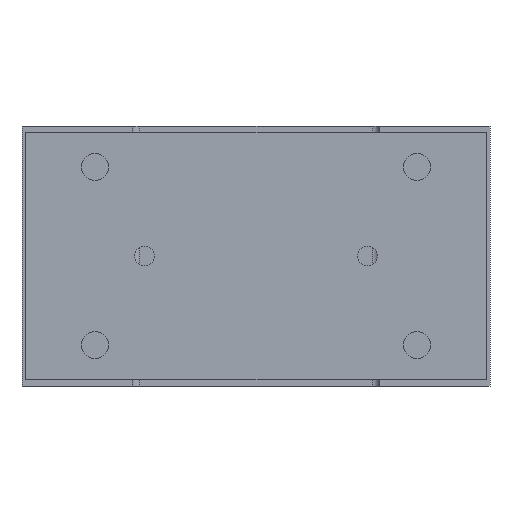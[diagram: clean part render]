
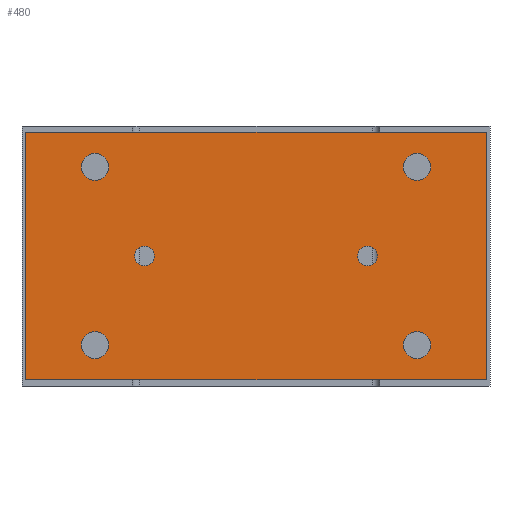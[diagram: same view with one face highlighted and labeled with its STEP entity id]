
A CAD part, left-side view. The second image highlights one B-rep face of the part: STEP entity #480.
In plain terms, the highlighted planar face has unit normal (-1, 0, 0).
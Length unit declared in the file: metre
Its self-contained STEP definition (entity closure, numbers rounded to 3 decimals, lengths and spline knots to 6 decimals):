
#480 = ADVANCED_FACE( '', ( #1116, #1117, #1118, #1119, #1120, #1121, #1122 ), #1123, .T. );
#1116 = FACE_BOUND( '', #1920, .T. );
#1117 = FACE_BOUND( '', #1921, .T. );
#1118 = FACE_BOUND( '', #1922, .T. );
#1119 = FACE_BOUND( '', #1923, .T. );
#1120 = FACE_BOUND( '', #1924, .T. );
#1121 = FACE_BOUND( '', #1925, .T. );
#1122 = FACE_OUTER_BOUND( '', #1926, .T. );
#1123 = PLANE( '', #1927 );
#1920 = EDGE_LOOP( '', ( #3124 ) );
#1921 = EDGE_LOOP( '', ( #3125 ) );
#1922 = EDGE_LOOP( '', ( #3126 ) );
#1923 = EDGE_LOOP( '', ( #3127 ) );
#1924 = EDGE_LOOP( '', ( #3128 ) );
#1925 = EDGE_LOOP( '', ( #3129 ) );
#1926 = EDGE_LOOP( '', ( #3130, #3131, #3132, #3133 ) );
#1927 = AXIS2_PLACEMENT_3D( '', #3134, #3135, #3136 );
#3124 = ORIENTED_EDGE( '', *, *, #3912, .F. );
#3125 = ORIENTED_EDGE( '', *, *, #3985, .F. );
#3126 = ORIENTED_EDGE( '', *, *, #4196, .F. );
#3127 = ORIENTED_EDGE( '', *, *, #4053, .F. );
#3128 = ORIENTED_EDGE( '', *, *, #3943, .F. );
#3129 = ORIENTED_EDGE( '', *, *, #4197, .T. );
#3130 = ORIENTED_EDGE( '', *, *, #4194, .T. );
#3131 = ORIENTED_EDGE( '', *, *, #3952, .T. );
#3132 = ORIENTED_EDGE( '', *, *, #3989, .T. );
#3133 = ORIENTED_EDGE( '', *, *, #3856, .T. );
#3134 = CARTESIAN_POINT( '', ( -0.135, 0.093, -0.1025 ) );
#3135 = DIRECTION( '', ( -1., 0., 0. ) );
#3136 = DIRECTION( '', ( 0., 0., -1. ) );
#3856 = EDGE_CURVE( '', #4451, #4449, #4452, .T. );
#3912 = EDGE_CURVE( '', #4544, #4544, #4545, .T. );
#3943 = EDGE_CURVE( '', #4593, #4593, #4594, .T. );
#3952 = EDGE_CURVE( '', #4609, #4607, #4610, .T. );
#3985 = EDGE_CURVE( '', #4663, #4663, #4664, .T. );
#3989 = EDGE_CURVE( '', #4607, #4451, #4669, .T. );
#4053 = EDGE_CURVE( '', #4770, #4770, #4771, .T. );
#4194 = EDGE_CURVE( '', #4449, #4609, #4978, .T. );
#4196 = EDGE_CURVE( '', #4980, #4980, #4981, .T. );
#4197 = EDGE_CURVE( '', #4982, #4982, #4983, .T. );
#4449 = VERTEX_POINT( '', #5299 );
#4451 = VERTEX_POINT( '', #5302 );
#4452 = LINE( '', #5303, #5304 );
#4544 = VERTEX_POINT( '', #5453 );
#4545 = CIRCLE( '', #5454, 0.0055 );
#4593 = VERTEX_POINT( '', #5510 );
#4594 = CIRCLE( '', #5511, 0.004 );
#4607 = VERTEX_POINT( '', #5525 );
#4609 = VERTEX_POINT( '', #5528 );
#4610 = LINE( '', #5529, #5530 );
#4663 = VERTEX_POINT( '', #5630 );
#4664 = CIRCLE( '', #5631, 0.0055 );
#4669 = LINE( '', #5637, #5638 );
#4770 = VERTEX_POINT( '', #5798 );
#4771 = CIRCLE( '', #5799, 0.0055 );
#4978 = LINE( '', #6124, #6125 );
#4980 = VERTEX_POINT( '', #6127 );
#4981 = CIRCLE( '', #6128, 0.0055 );
#4982 = VERTEX_POINT( '', #6129 );
#4983 = CIRCLE( '', #6130, 0.004 );
#5299 = CARTESIAN_POINT( '', ( -0.135, 0.093, -0.0025 ) );
#5302 = CARTESIAN_POINT( '', ( -0.135, -0.093, -0.0025 ) );
#5303 = CARTESIAN_POINT( '', ( -0.135, -0.093, -0.0025 ) );
#5304 = VECTOR( '', #6553, 1. );
#5453 = CARTESIAN_POINT( '', ( -0.135, 0.0595, -0.0165 ) );
#5454 = AXIS2_PLACEMENT_3D( '', #6629, #6630, #6631 );
#5510 = CARTESIAN_POINT( '', ( -0.135, 0.041, -0.0525 ) );
#5511 = AXIS2_PLACEMENT_3D( '', #6673, #6674, #6675 );
#5525 = CARTESIAN_POINT( '', ( -0.135, -0.093, -0.1025 ) );
#5528 = CARTESIAN_POINT( '', ( -0.135, 0.093, -0.1025 ) );
#5529 = CARTESIAN_POINT( '', ( -0.135, 0.093, -0.1025 ) );
#5530 = VECTOR( '', #6687, 1. );
#5630 = CARTESIAN_POINT( '', ( -0.135, -0.0705, -0.0165 ) );
#5631 = AXIS2_PLACEMENT_3D( '', #6723, #6724, #6725 );
#5637 = CARTESIAN_POINT( '', ( -0.135, -0.093, -0.1025 ) );
#5638 = VECTOR( '', #6730, 1. );
#5798 = CARTESIAN_POINT( '', ( -0.135, -0.0705, -0.0885 ) );
#5799 = AXIS2_PLACEMENT_3D( '', #6802, #6803, #6804 );
#6124 = CARTESIAN_POINT( '', ( -0.135, 0.093, -0.0025 ) );
#6125 = VECTOR( '', #6965, 1. );
#6127 = CARTESIAN_POINT( '', ( -0.135, 0.0595, -0.0885 ) );
#6128 = AXIS2_PLACEMENT_3D( '', #6966, #6967, #6968 );
#6129 = CARTESIAN_POINT( '', ( -0.135, -0.041, -0.0525 ) );
#6130 = AXIS2_PLACEMENT_3D( '', #6969, #6970, #6971 );
#6553 = DIRECTION( '', ( 0., 1., 0. ) );
#6629 = CARTESIAN_POINT( '', ( -0.135, 0.065, -0.0165 ) );
#6630 = DIRECTION( '', ( -1., 0., 0. ) );
#6631 = DIRECTION( '', ( 0., -1., 0. ) );
#6673 = CARTESIAN_POINT( '', ( -0.135, 0.045, -0.0525 ) );
#6674 = DIRECTION( '', ( -1., 0., 0. ) );
#6675 = DIRECTION( '', ( 0., -1., 0. ) );
#6687 = DIRECTION( '', ( 0., -1., 0. ) );
#6723 = CARTESIAN_POINT( '', ( -0.135, -0.065, -0.0165 ) );
#6724 = DIRECTION( '', ( -1., 0., 0. ) );
#6725 = DIRECTION( '', ( 0., -1., 0. ) );
#6730 = DIRECTION( '', ( 0., 0., 1. ) );
#6802 = CARTESIAN_POINT( '', ( -0.135, -0.065, -0.0885 ) );
#6803 = DIRECTION( '', ( -1., 0., 0. ) );
#6804 = DIRECTION( '', ( 0., -1., 0. ) );
#6965 = DIRECTION( '', ( 0., 0., -1. ) );
#6966 = CARTESIAN_POINT( '', ( -0.135, 0.065, -0.0885 ) );
#6967 = DIRECTION( '', ( -1., 0., 0. ) );
#6968 = DIRECTION( '', ( 0., -1., 0. ) );
#6969 = CARTESIAN_POINT( '', ( -0.135, -0.045, -0.0525 ) );
#6970 = DIRECTION( '', ( 1., 0., 0. ) );
#6971 = DIRECTION( '', ( 0., 1., 0. ) );
